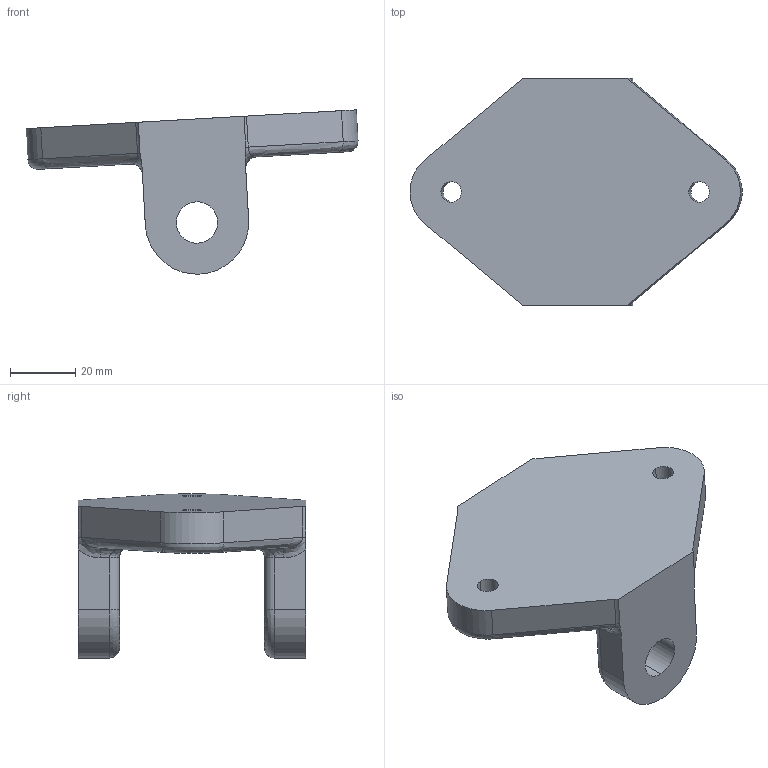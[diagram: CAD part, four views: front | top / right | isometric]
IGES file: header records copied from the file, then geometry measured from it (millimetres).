
Start section:  PTC IGES file: bracket.igs
Global section: file name: bracket.igs; native system: Pro/ENGINEER by Parametric Technology Corporation; preprocessor: 9910; author: mjm; organization: Unknown; date: 991101.173225; units: inch
Bounding box: 101.9 x 69.85 x 50.43 mm (x, y, z)
Surface area: 19173.3 mm2 (no closed solid volume)
Topology: 0 solids, 0 shells, 56 faces, 268 edges, 268 vertices
Faces by surface type: revolution 34, bspline 22
